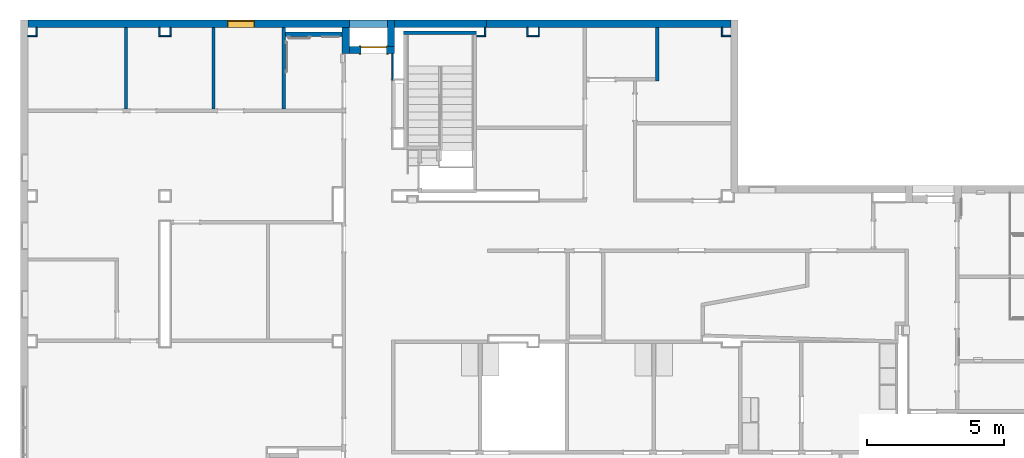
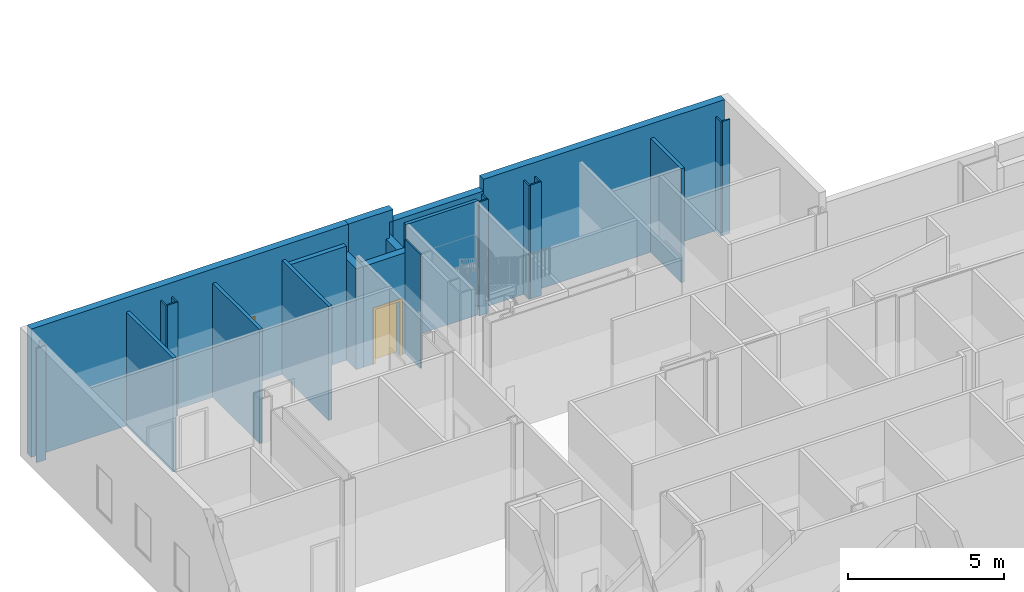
# One storey, part 43 of 87: 26 walls, 1 door, 1 window, 2 openings.
"""IFC2X3 building model written with IfcOpenShell, lengths in metres."""

from ifc_helpers import new_model, entity, si_unit, converted_unit, frame, frame_2d, origin, origin_2d_with_axis, place, context, project, spatial, polyline, rectangle, outline, extrude, clip, bounded_halfspace, source, transform, mapped, material, layer, layer_set, layer_usage, type_object, type_shapes, element, fill, save


model = new_model("IFC2X3")

# Units and contexts
model_context = context("Model", 3, precision=1e-09, world=origin())
plan_context = context("Plan", 3, precision=1e-09, world=origin())
ifc_project = project(units=[si_unit("LENGTHUNIT", "METRE"), si_unit("AREAUNIT", "SQUARE_METRE"), si_unit("VOLUMEUNIT", "CUBIC_METRE"), converted_unit("PLANEANGLEUNIT", "DEGREE", entity("IfcRatioMeasure", 0.01745329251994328), si_unit("PLANEANGLEUNIT", "RADIAN"), dimensions=[0, 0, 0, 0, 0, 0, 0]), si_unit("TIMEUNIT", "SECOND")], contexts=[model_context, plan_context])

# Site, building, storey
site_placement = place(None, origin())
site = spatial("IfcSite", under=ifc_project, at=site_placement, Name="Default", CompositionType="ELEMENT")
building_placement = place(site_placement, origin())
building = spatial("IfcBuilding", under=site, at=building_placement, CompositionType="ELEMENT")
storey_placement = place(building_placement, origin())
storey = spatial("IfcBuildingStorey", under=building, at=storey_placement, Name="First Floor", CompositionType="ELEMENT", Elevation=-3.531500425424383e-13)

# Wall, opening, window
ifc_material_1 = material(Name="Insulation - Insulated Panel")
ifc_layer_1 = layer(ifc_material_1, 0.042)
ifc_material_2 = material(Name="Metal - Firring")
ifc_layer_2 = layer(ifc_material_2, 0.038)
ifc_material_3 = material(Name="Wood - Sheathing - plywood")
ifc_layer_3 = layer(ifc_material_3, 0.019)
ifc_material_4 = material(Name="Metal - Stud Layer")
ifc_layer_4 = layer(ifc_material_4, 0.152)
ifc_material_5 = material(Name="Plasterboard")
ifc_layer_5 = layer(ifc_material_5, 0.016)
ifc_layer_set_1 = layer_set([ifc_layer_1, ifc_layer_2, ifc_layer_3, ifc_layer_4, ifc_layer_5], Name="Basic Wall:Exterior - Insul Panel on Mtl. Stud")
ifc_layer_usage_1 = layer_usage(ifc_layer_set_1, "AXIS2", "NEGATIVE", 0.1335)
wall_1_placement = place(storey_placement, frame((-52.01300000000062, 56.38649999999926, 0.0)))
wall_1 = element("IfcWallStandardCase", 1, at=wall_1_placement, inside=storey, material=ifc_layer_usage_1, Name="Basic Wall:Exterior - Insul Panel on Mtl. Stud", ObjectType="Basic Wall:Exterior - Insul Panel on Mtl. Stud", context=model_context, shape_type="SweptSolid", body=[
    extrude(rectangle(XDim=11.74300000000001, YDim=0.2670000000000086, at=frame_2d((5.871500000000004, 0.0), x_axis=(-1.0, 0.0))), origin(), (0.0, 0.0, 1.0), 5.02700000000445),
])
opening_1_placement = place(wall_1_placement, frame((7.282999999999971, -0.1335000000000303, 0.9049999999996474)))
opening_1 = element("IfcOpeningElement", 2, at=opening_1_placement, cuts=wall_1, Name="M_Fixed:1735 x 1000mm:1735 x 1000mm:1", ObjectType="Opening", context=model_context, shape_type="SweptSolid", body=[
    extrude(rectangle(XDim=1.734999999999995, YDim=0.9999999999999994, at=frame_2d((0.8674999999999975, 0.5000000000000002), x_axis=(1.0, 0.0))), frame((0.0, 0.0, 0.0), z_axis=(0.0, 1.0, 0.0), x_axis=(0.0, 0.0, 1.0)), (0.0, 0.0, 1.0), 0.267),
])
window_style = type_object("IfcWindowStyle", Name="1735 x 1000mm", ConstructionType="NOTDEFINED", OperationType="NOTDEFINED", ParameterTakesPrecedence=False, Sizeable=False)
shared_shape_1 = source(origin(), model_context, "Body", "SweptSolid", [
    extrude(rectangle(XDim=0.012, YDim=0.873999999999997, at=origin_2d_with_axis()), frame((0.5000000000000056, 0.2259999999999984, 0.06299999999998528), z_axis=(0.0, 0.0, 1.0), x_axis=(0.0, -1.0, 0.0)), (0.0, 0.0, 1.0), 1.609000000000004),
    extrude(outline(polyline([(-0.4809999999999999, -0.8485000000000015), (0.4809999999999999, -0.8485000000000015), (0.4809999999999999, 0.8485000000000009), (-0.4809999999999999, 0.8485000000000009), (-0.4809999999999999, -0.8485000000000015)]), holes=[polyline([(-0.4369999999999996, -0.8045000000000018), (-0.4369999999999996, 0.8045000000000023), (0.4369999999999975, 0.8045000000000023), (0.4369999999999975, -0.8045000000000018), (-0.4369999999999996, -0.8045000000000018)])]), frame((0.5000000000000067, 0.203999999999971, 0.8674999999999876), z_axis=(0.0, 1.0, 0.0), x_axis=(1.0, 0.0, 0.0)), (0.0, 0.0, 1.0), 0.04400000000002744),
    extrude(outline(polyline([(-0.4999999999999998, -0.8674999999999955), (0.4999999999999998, -0.8674999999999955), (0.4999999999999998, 0.8674999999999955), (-0.4999999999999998, 0.8674999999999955), (-0.4999999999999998, -0.8674999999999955)]), holes=[polyline([(-0.4810000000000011, -0.8484999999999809), (-0.4810000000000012, 0.8485000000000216), (0.4809999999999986, 0.8485000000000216), (0.4809999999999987, -0.8484999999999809), (-0.4810000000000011, -0.8484999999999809)])]), frame((0.500000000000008, 0.203999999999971, 0.8675000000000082), z_axis=(0.0, 1.0, 0.0), x_axis=(1.0, 0.0, 0.0)), (0.0, 0.0, 1.0), 0.06300000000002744),
    extrude(outline(polyline([(-0.5000000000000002, -0.867499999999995), (0.5000000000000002, -0.867499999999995), (0.5000000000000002, 0.867499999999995), (-0.5000000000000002, 0.867499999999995), (-0.5000000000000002, -0.867499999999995)]), holes=[polyline([(-0.4679999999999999, -0.8354999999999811), (-0.4679999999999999, 0.8355000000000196), (0.4680000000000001, 0.8355000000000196), (0.4680000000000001, -0.8354999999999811), (-0.4679999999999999, -0.8354999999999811)])]), frame((0.5000000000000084, 0.0, 0.8675000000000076), z_axis=(0.0, 1.0, 0.0), x_axis=(1.0, 0.0, 0.0)), (0.0, 0.0, 1.0), 0.2039999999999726),
])
type_shapes(window_style, [shared_shape_1])
window_placement = place(opening_1_placement, origin())
window = element("IfcWindow", 3, at=window_placement, inside=storey, type_object=window_style, Name="M_Fixed:1735 x 1000mm:1735 x 1000mm", ObjectType="1735 x 1000mm", OverallHeight=1.734999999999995, OverallWidth=0.9999999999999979, context=model_context, shape_type="MappedRepresentation", body=[
    mapped(shared_shape_1, transform((0.0, 0.0, 0.0), scale=1.0)),
])
fill(opening_1, window)

# Wall
ifc_layer_usage_2 = layer_usage(ifc_layer_set_1, "AXIS2", "NEGATIVE", 0.1335)
wall_2_placement = place(storey_placement, frame((-40.40350000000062, 56.25299999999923, 0.0), z_axis=(0.0, 0.0, 1.0), x_axis=(0.0, -1.0, 0.0)))
element("IfcWallStandardCase", 4, at=wall_2_placement, inside=storey, material=ifc_layer_usage_2, Name="Basic Wall:Exterior - Insul Panel on Mtl. Stud", ObjectType="Basic Wall:Exterior - Insul Panel on Mtl. Stud", context=model_context, shape_type="SweptSolid", body=[
    extrude(rectangle(XDim=0.9649999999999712, YDim=0.2670000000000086, at=frame_2d((0.4824999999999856, 0.0), x_axis=(-1.0, 0.0))), origin(), (0.0, 0.0, 1.0), 3.949500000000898),
])

# Wall, opening, door
ifc_layer_usage_3 = layer_usage(ifc_layer_set_1, "AXIS2", "NEGATIVE", 0.1335)
wall_3_placement = place(storey_placement, frame((-40.27000000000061, 55.42149999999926, 0.0)))
wall_3 = element("IfcWallStandardCase", 5, at=wall_3_placement, inside=storey, material=ifc_layer_usage_3, Name="Basic Wall:Exterior - Insul Panel on Mtl. Stud", ObjectType="Basic Wall:Exterior - Insul Panel on Mtl. Stud", context=model_context, shape_type="SweptSolid", body=[
    extrude(rectangle(XDim=1.65699999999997, YDim=0.2670000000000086, at=frame_2d((0.8284999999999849, 0.0), x_axis=(-1.0, 0.0))), origin(), (0.0, 0.0, 1.0), 3.949500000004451),
])
opening_2_placement = place(wall_3_placement, frame((0.4349999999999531, -0.133500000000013, 0.0)))
opening_2 = element("IfcOpeningElement", 6, at=opening_2_placement, cuts=wall_3, Name="M_Single-Flush:0915 x 2134mm Exterior:0915 x 2134mm Exterior:1", ObjectType="Opening", context=model_context, shape_type="SweptSolid", body=[
    extrude(rectangle(XDim=0.9149999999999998, YDim=2.134, at=frame_2d((1.067, 0.4575), x_axis=(0.0, 1.0))), frame((0.0, 0.0, 0.0), z_axis=(0.0, 1.0, 0.0), x_axis=(0.0, 0.0, 1.0)), (0.0, 0.0, 1.0), 0.267),
])
door_style = type_object("IfcDoorStyle", Name="0915 x 2134mm Exterior", ConstructionType="NOTDEFINED", OperationType="SINGLE_SWING_RIGHT", ParameterTakesPrecedence=False, Sizeable=False)
shared_shape_2 = source(origin(), model_context, "Body", "SweptSolid", [
    extrude(outline(polyline([(-0.5335, -1.123999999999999), (0.5334999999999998, -1.123999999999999), (0.5334999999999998, 1.086), (0.4574999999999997, 1.086), (0.4574999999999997, -1.048000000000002), (-0.4574999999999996, -1.048000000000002), (-0.4574999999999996, 1.086), (-0.5335, 1.086), (-0.5335, -1.123999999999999)])), frame((0.4575000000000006, 0.2669999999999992, 1.086), z_axis=(0.0, 1.0, 0.0), x_axis=(1.0, 0.0, 0.0)), (0.0, 0.0, 1.0), 0.02499999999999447),
    extrude(outline(polyline([(-1.123999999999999, -0.5334999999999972), (1.085999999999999, -0.5334999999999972), (1.085999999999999, -0.4575000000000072), (-1.048, -0.4575000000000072), (-1.048, 0.4575000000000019), (1.085999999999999, 0.4575000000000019), (1.085999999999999, 0.5335000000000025), (-1.123999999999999, 0.5335000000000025), (-1.123999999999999, -0.5334999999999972)])), frame((0.4575000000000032, -0.02500000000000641, 1.085999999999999), z_axis=(0.0, 1.0, 0.0), x_axis=(0.0, 0.0, -1.0)), (0.0, 0.0, 1.0), 0.0250000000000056),
    extrude(rectangle(XDim=0.051, YDim=0.9149999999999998, at=origin_2d_with_axis()), frame((0.4575000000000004, 0.2414999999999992, 0.0), z_axis=(0.0, 0.0, 1.0), x_axis=(0.0, 1.0, 0.0)), (0.0, 0.0, 1.0), 2.133999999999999),
])
type_shapes(door_style, [shared_shape_2])
door_placement = place(opening_2_placement, origin())
door = element("IfcDoor", 7, at=door_placement, inside=storey, type_object=door_style, Name="M_Single-Flush:0915 x 2134mm Exterior:0915 x 2134mm Exterior", ObjectType="0915 x 2134mm Exterior", OverallHeight=2.134, OverallWidth=0.9149999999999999, context=model_context, shape_type="MappedRepresentation", body=[
    mapped(shared_shape_2, transform((0.0, 0.0, 0.0), scale=1.0)),
])
fill(opening_2, door)

# Walls
ifc_layer_usage_4 = layer_usage(ifc_layer_set_1, "AXIS2", "NEGATIVE", 0.1335)
wall_4_placement = place(storey_placement, frame((-38.74650000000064, 55.55499999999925, 0.0), z_axis=(0.0, 0.0, 1.0), x_axis=(0.0, 1.0, 0.0)))
element("IfcWallStandardCase", 8, at=wall_4_placement, inside=storey, material=ifc_layer_usage_4, Name="Basic Wall:Exterior - Insul Panel on Mtl. Stud", ObjectType="Basic Wall:Exterior - Insul Panel on Mtl. Stud", context=model_context, shape_type="SweptSolid", body=[
    extrude(rectangle(XDim=0.9649999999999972, YDim=0.267, at=frame_2d((0.4824999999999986, 0.0), x_axis=(-1.0, 0.0))), origin(), (0.0, 0.0, 1.0), 3.949500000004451),
])
ifc_layer_usage_5 = layer_usage(ifc_layer_set_1, "AXIS2", "NEGATIVE", 0.1335)
wall_5_placement = place(storey_placement, frame((-35.26350000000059, 56.38649999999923, 0.0)))
element("IfcWallStandardCase", 9, at=wall_5_placement, inside=storey, material=ifc_layer_usage_5, Name="Basic Wall:Exterior - Insul Panel on Mtl. Stud", ObjectType="Basic Wall:Exterior - Insul Panel on Mtl. Stud", context=model_context, shape_type="SweptSolid", body=[
    extrude(rectangle(XDim=8.936499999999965, YDim=0.267, at=frame_2d((4.468249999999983, 0.0), x_axis=(-1.0, 0.0))), origin(), (0.0, 0.0, 1.0), 5.02700000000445),
])
ifc_layer_6 = layer(ifc_material_5, 0.016)
ifc_layer_7 = layer(ifc_material_4, 0.092)
ifc_layer_8 = layer(ifc_material_5, 0.016)
ifc_layer_set_2 = layer_set([ifc_layer_6, ifc_layer_7, ifc_layer_8], Name="Basic Wall:Interior - Partition (92mm Stud)")
ifc_layer_usage_6 = layer_usage(ifc_layer_set_2, "AXIS2", "NEGATIVE", 0.062)
wall_6_placement = place(storey_placement, frame((-48.43200000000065, 56.25299999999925, 0.0), z_axis=(0.0, 0.0, 1.0), x_axis=(0.0, -1.0, 0.0)))
element("IfcWallStandardCase", 10, at=wall_6_placement, inside=storey, material=ifc_layer_usage_6, Name="Basic Wall:Interior - Partition (92mm Stud)", ObjectType="Basic Wall:Interior - Partition (92mm Stud)", context=model_context, shape_type="SweptSolid", body=[
    extrude(rectangle(XDim=2.988999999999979, YDim=0.1240000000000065, at=frame_2d((1.49449999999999, 0.0), x_axis=(-1.0, 0.0))), origin(), (0.0, 0.0, 1.0), 4.46800000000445),
])
ifc_layer_usage_7 = layer_usage(ifc_layer_set_2, "AXIS2", "NEGATIVE", 0.062)
wall_7_placement = place(storey_placement, frame((-45.23200000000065, 56.25299999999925, 0.0), z_axis=(0.0, 0.0, 1.0), x_axis=(0.0, -1.0, 0.0)))
element("IfcWallStandardCase", 11, at=wall_7_placement, inside=storey, material=ifc_layer_usage_7, Name="Basic Wall:Interior - Partition (92mm Stud)", ObjectType="Basic Wall:Interior - Partition (92mm Stud)", context=model_context, shape_type="SweptSolid", body=[
    extrude(rectangle(XDim=2.988999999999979, YDim=0.1240000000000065, at=frame_2d((1.49449999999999, 0.0), x_axis=(-1.0, 0.0))), origin(), (0.0, 0.0, 1.0), 4.46800000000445),
])
ifc_layer_usage_8 = layer_usage(ifc_layer_set_2, "AXIS2", "NEGATIVE", 0.062)
wall_8_placement = place(storey_placement, frame((-42.66200000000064, 56.25299999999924, 0.0), z_axis=(0.0, 0.0, 1.0), x_axis=(0.0, -1.0, 0.0)))
element("IfcWallStandardCase", 12, at=wall_8_placement, inside=storey, material=ifc_layer_usage_8, Name="Basic Wall:Interior - Partition (92mm Stud)", ObjectType="Basic Wall:Interior - Partition (92mm Stud)", context=model_context, shape_type="SweptSolid", body=[
    extrude(rectangle(XDim=2.988999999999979, YDim=0.1240000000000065, at=frame_2d((1.49449999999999, 0.0), x_axis=(-1.0, 0.0))), origin(), (0.0, 0.0, 1.0), 4.46800000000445),
])
ifc_layer_9 = layer(ifc_material_4, 0.152)
ifc_layer_10 = layer(ifc_material_5, 0.016)
ifc_layer_set_3 = layer_set([ifc_layer_9, ifc_layer_10], Name="Basic Wall:Interior - Furring (152 mm Stud)")
ifc_layer_usage_9 = layer_usage(ifc_layer_set_3, "AXIS2", "POSITIVE", -0.08399999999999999)
wall_9_placement = place(storey_placement, frame((-40.53700000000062, 55.99399999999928, 0.0), z_axis=(0.0, 0.0, 1.0), x_axis=(-1.0, 0.0, 0.0)))
element("IfcWallStandardCase", 13, at=wall_9_placement, inside=storey, material=ifc_layer_usage_9, Name="Basic Wall:Interior - Furring (152 mm Stud)", ObjectType="Basic Wall:Interior - Furring (152 mm Stud)", context=model_context, shape_type="SweptSolid", body=[
    extrude(rectangle(XDim=2.063000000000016, YDim=0.1679999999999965, at=frame_2d((1.031500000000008, 0.0), x_axis=(-1.0, 0.0))), origin(), (0.0, 0.0, 1.0), 4.46800000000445),
])
ifc_material_6 = material(Name="Type-X Plasterboard")
ifc_layer_11 = layer(ifc_material_6, 0.016)
ifc_layer_12 = layer(ifc_material_4, 0.092)
ifc_layer_13 = layer(ifc_material_6, 0.016)
ifc_layer_set_4 = layer_set([ifc_layer_11, ifc_layer_12, ifc_layer_13], Name="Basic Wall:Interior - Rated 1-HR (92mm Stud)")
ifc_layer_usage_10 = layer_usage(ifc_layer_set_4, "AXIS2", "NEGATIVE", 0.06200000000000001)
wall_10_placement = place(storey_placement, frame((-35.61600000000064, 56.05700035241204, 0.0), z_axis=(0.0, 0.0, 1.0), x_axis=(-1.0, 0.0, 0.0)))
element("IfcWallStandardCase", 14, at=wall_10_placement, inside=storey, material=ifc_layer_usage_10, Name="Basic Wall:Interior - Rated 1-HR (92mm Stud)", ObjectType="Basic Wall:Interior - Rated 1-HR (92mm Stud)", context=model_context, shape_type="SweptSolid", body=[
    extrude(rectangle(XDim=2.668000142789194, YDim=0.1240000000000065, at=frame_2d((1.334000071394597, 0.0), x_axis=(-1.0, 0.0))), origin(), (0.0, 0.0, 1.0), 4.46800000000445),
])
ifc_layer_usage_11 = layer_usage(ifc_layer_set_2, "AXIS2", "NEGATIVE", 0.062)
wall_11_placement = place(storey_placement, frame((-29.01200000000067, 56.25299999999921, 0.0), z_axis=(0.0, 0.0, 1.0), x_axis=(0.0, -1.0, 0.0)))
element("IfcWallStandardCase", 15, at=wall_11_placement, inside=storey, material=ifc_layer_usage_11, Name="Basic Wall:Interior - Partition (92mm Stud)", ObjectType="Basic Wall:Interior - Partition (92mm Stud)", context=model_context, shape_type="SweptSolid", body=[
    extrude(rectangle(XDim=1.96639999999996, YDim=0.1239999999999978, at=frame_2d((0.9831999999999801, 0.0), x_axis=(-1.0, 0.0))), origin(), (0.0, 0.0, 1.0), 4.468000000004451),
])
ifc_layer_usage_12 = layer_usage(ifc_layer_set_1, "AXIS2", "NEGATIVE", 0.1335)
wall_12_placement = place(storey_placement, frame((-40.40350000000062, 56.38649999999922, 3.0)))
element("IfcWallStandardCase", 16, at=wall_12_placement, inside=storey, material=ifc_layer_usage_12, Name="Basic Wall:Exterior - Insul Panel on Mtl. Stud", ObjectType="Basic Wall:Exterior - Insul Panel on Mtl. Stud", context=model_context, shape_type="Clipping", body=[
    clip(extrude(rectangle(XDim=1.65699999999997, YDim=0.2669999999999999, at=frame_2d((0.9619999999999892, 0.0), x_axis=(-1.0, 0.0))), origin(), (0.0, 0.0, 1.0), 2.02700000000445), bounded_halfspace(frame((1.656999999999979, -0.1334999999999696, 0.9495000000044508), z_axis=(-1.0, 0.0, 0.0), x_axis=(0.0, 1.0, 0.0)), True, frame((1.656999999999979, -0.1334999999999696, 0.9495000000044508), z_axis=(-1.0, 0.0, 0.0), x_axis=(0.0, 1.0, 0.0)), polyline([(0.0, 0.0), (0.0, -0.6204999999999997), (0.2669999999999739, -0.6204999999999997), (0.2669999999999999, 0.0), (0.0, 0.0)]))),
])
ifc_layer_usage_13 = layer_usage(ifc_layer_set_1, "AXIS2", "NEGATIVE", 0.1335)
wall_13_placement = place(storey_placement, frame((-38.74650000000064, 56.38649999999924, 0.0)))
element("IfcWallStandardCase", 17, at=wall_13_placement, inside=storey, material=ifc_layer_usage_13, Name="Basic Wall:Exterior - Insul Panel on Mtl. Stud", ObjectType="Basic Wall:Exterior - Insul Panel on Mtl. Stud", context=model_context, shape_type="SweptSolid", body=[
    extrude(rectangle(XDim=3.349500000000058, YDim=0.267, at=frame_2d((1.808250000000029, 0.0), x_axis=(-1.0, 0.0))), origin(), (0.0, 0.0, 1.0), 4.57000000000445),
])
ifc_layer_14 = layer(ifc_material_4, 0.038)
ifc_layer_15 = layer(ifc_material_5, 0.016)
ifc_layer_set_5 = layer_set([ifc_layer_14, ifc_layer_15], Name="Basic Wall:Interior - Furring (38 mm Stud)")
ifc_layer_usage_14 = layer_usage(ifc_layer_set_5, "AXIS2", "NEGATIVE", 0.027)
wall_14_placement = place(storey_placement, frame((-52.01300000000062, 55.93699999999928, 0.0)))
element("IfcWallStandardCase", 18, at=wall_14_placement, inside=storey, material=ifc_layer_usage_14, Name="Basic Wall:Interior - Furring (38 mm Stud)", ObjectType="Basic Wall:Interior - Furring (38 mm Stud)", context=model_context, shape_type="SweptSolid", body=[
    extrude(rectangle(XDim=0.343, YDim=0.05400000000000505, at=frame_2d((0.1715, 0.0), x_axis=(-1.0, 0.0))), origin(), (0.0, 0.0, 1.0), 4.46800000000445),
])
ifc_layer_usage_15 = layer_usage(ifc_layer_set_5, "AXIS2", "NEGATIVE", 0.027)
wall_15_placement = place(storey_placement, frame((-51.69700000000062, 55.96399999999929, 0.0), z_axis=(0.0, 0.0, 1.0), x_axis=(0.0, 1.0, 0.0)))
element("IfcWallStandardCase", 19, at=wall_15_placement, inside=storey, material=ifc_layer_usage_15, Name="Basic Wall:Interior - Furring (38 mm Stud)", ObjectType="Basic Wall:Interior - Furring (38 mm Stud)", context=model_context, shape_type="SweptSolid", body=[
    extrude(rectangle(XDim=0.2889999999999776, YDim=0.05400000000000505, at=frame_2d((0.1444999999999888, 0.0), x_axis=(-1.0, 0.0))), origin(), (0.0, 0.0, 1.0), 4.46800000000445),
])
ifc_layer_usage_16 = layer_usage(ifc_layer_set_5, "AXIS2", "NEGATIVE", 0.027)
wall_16_placement = place(storey_placement, frame((-47.20300000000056, 56.25299999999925, 0.0), z_axis=(0.0, 0.0, 1.0), x_axis=(0.0, -1.0, 0.0)))
element("IfcWallStandardCase", 20, at=wall_16_placement, inside=storey, material=ifc_layer_usage_16, Name="Basic Wall:Interior - Furring (38 mm Stud)", ObjectType="Basic Wall:Interior - Furring (38 mm Stud)", context=model_context, shape_type="SweptSolid", body=[
    extrude(rectangle(XDim=0.342999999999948, YDim=0.05400000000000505, at=frame_2d((0.171499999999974, 0.0), x_axis=(-1.0, 0.0))), origin(), (0.0, 0.0, 1.0), 4.46800000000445),
])
ifc_layer_usage_17 = layer_usage(ifc_layer_set_5, "AXIS2", "NEGATIVE", 0.027)
wall_17_placement = place(storey_placement, frame((-47.17600000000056, 55.93699999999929, 0.0)))
element("IfcWallStandardCase", 21, at=wall_17_placement, inside=storey, material=ifc_layer_usage_17, Name="Basic Wall:Interior - Furring (38 mm Stud)", ObjectType="Basic Wall:Interior - Furring (38 mm Stud)", context=model_context, shape_type="SweptSolid", body=[
    extrude(rectangle(XDim=0.4059999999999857, YDim=0.05400000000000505, at=frame_2d((0.2029999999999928, 0.0), x_axis=(-1.0, 0.0))), origin(), (0.0, 0.0, 1.0), 4.46800000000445),
])
ifc_layer_usage_18 = layer_usage(ifc_layer_set_5, "AXIS2", "NEGATIVE", 0.027)
wall_18_placement = place(storey_placement, frame((-46.79700000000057, 55.9639999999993, 0.0), z_axis=(0.0, 0.0, 1.0), x_axis=(0.0, 1.0, 0.0)))
element("IfcWallStandardCase", 22, at=wall_18_placement, inside=storey, material=ifc_layer_usage_18, Name="Basic Wall:Interior - Furring (38 mm Stud)", ObjectType="Basic Wall:Interior - Furring (38 mm Stud)", context=model_context, shape_type="SweptSolid", body=[
    extrude(rectangle(XDim=0.2889999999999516, YDim=0.05400000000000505, at=frame_2d((0.1444999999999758, 0.0), x_axis=(-1.0, 0.0))), origin(), (0.0, 0.0, 1.0), 4.46800000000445),
])
ifc_layer_usage_19 = layer_usage(ifc_layer_set_5, "AXIS2", "NEGATIVE", 0.027)
wall_19_placement = place(storey_placement, frame((-38.69300000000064, 55.28799999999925, 0.0), z_axis=(0.0, 0.0, 1.0), x_axis=(0.0, -1.0, 0.0)))
element("IfcWallStandardCase", 23, at=wall_19_placement, inside=storey, material=ifc_layer_usage_19, Name="Basic Wall:Interior - Furring (38 mm Stud)", ObjectType="Basic Wall:Interior - Furring (38 mm Stud)", context=model_context, shape_type="SweptSolid", body=[
    extrude(rectangle(XDim=0.9745743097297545, YDim=0.05399999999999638, at=frame_2d((0.4872871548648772, 0.0), x_axis=(-1.0, 0.0))), origin(), (0.0, 0.0, 1.0), 4.46800000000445),
])
ifc_layer_usage_20 = layer_usage(ifc_layer_set_5, "AXIS2", "NEGATIVE", 0.027)
wall_20_placement = place(storey_placement, frame((-35.61600000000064, 55.93700088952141, 0.0)))
element("IfcWallStandardCase", 24, at=wall_20_placement, inside=storey, material=ifc_layer_usage_20, Name="Basic Wall:Interior - Furring (38 mm Stud)", ObjectType="Basic Wall:Interior - Furring (38 mm Stud)", context=model_context, shape_type="SweptSolid", body=[
    extrude(rectangle(XDim=0.340000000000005, YDim=0.05400000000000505, at=frame_2d((0.1700000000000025, 0.0), x_axis=(-1.0, 0.0))), origin(), (0.0, 0.0, 1.0), 4.46800000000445),
])
ifc_layer_usage_21 = layer_usage(ifc_layer_set_5, "AXIS2", "NEGATIVE", 0.027)
wall_21_placement = place(storey_placement, frame((-35.30300000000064, 55.96400088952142, 0.0), z_axis=(0.0, 0.0, 1.0), x_axis=(0.0, 1.0, 0.0)))
element("IfcWallStandardCase", 25, at=wall_21_placement, inside=storey, material=ifc_layer_usage_21, Name="Basic Wall:Interior - Furring (38 mm Stud)", ObjectType="Basic Wall:Interior - Furring (38 mm Stud)", context=model_context, shape_type="SweptSolid", body=[
    extrude(rectangle(XDim=0.2889991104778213, YDim=0.05399999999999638, at=frame_2d((0.1444995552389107, 0.0), x_axis=(-1.0, 0.0))), origin(), (0.0, 0.0, 1.0), 4.46800000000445),
])
ifc_layer_usage_22 = layer_usage(ifc_layer_set_5, "AXIS2", "NEGATIVE", 0.027)
wall_22_placement = place(storey_placement, frame((-33.75300000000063, 56.25299999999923, 0.0), z_axis=(0.0, 0.0, 1.0), x_axis=(0.0, -1.0, 0.0)))
element("IfcWallStandardCase", 26, at=wall_22_placement, inside=storey, material=ifc_layer_usage_22, Name="Basic Wall:Interior - Furring (38 mm Stud)", ObjectType="Basic Wall:Interior - Furring (38 mm Stud)", context=model_context, shape_type="SweptSolid", body=[
    extrude(rectangle(XDim=0.3429991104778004, YDim=0.05399999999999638, at=frame_2d((0.1714995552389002, 0.0), x_axis=(-1.0, 0.0))), origin(), (0.0, 0.0, 1.0), 4.46800000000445),
])
ifc_layer_usage_23 = layer_usage(ifc_layer_set_5, "AXIS2", "NEGATIVE", 0.027)
wall_23_placement = place(storey_placement, frame((-33.72600000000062, 55.93700088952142, 0.0)))
element("IfcWallStandardCase", 27, at=wall_23_placement, inside=storey, material=ifc_layer_usage_23, Name="Basic Wall:Interior - Furring (38 mm Stud)", ObjectType="Basic Wall:Interior - Furring (38 mm Stud)", context=model_context, shape_type="SweptSolid", body=[
    extrude(rectangle(XDim=0.4060000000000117, YDim=0.05400000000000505, at=frame_2d((0.2030000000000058, 0.0), x_axis=(-1.0, 0.0))), origin(), (0.0, 0.0, 1.0), 4.46800000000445),
])
ifc_layer_usage_24 = layer_usage(ifc_layer_set_5, "AXIS2", "NEGATIVE", 0.027)
wall_24_placement = place(storey_placement, frame((-33.34700000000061, 55.96400088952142, 0.0), z_axis=(0.0, 0.0, 1.0), x_axis=(0.0, 1.0, 0.0)))
element("IfcWallStandardCase", 28, at=wall_24_placement, inside=storey, material=ifc_layer_usage_24, Name="Basic Wall:Interior - Furring (38 mm Stud)", ObjectType="Basic Wall:Interior - Furring (38 mm Stud)", context=model_context, shape_type="SweptSolid", body=[
    extrude(rectangle(XDim=0.288999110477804, YDim=0.05399999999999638, at=frame_2d((0.144499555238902, 0.0), x_axis=(-1.0, 0.0))), origin(), (0.0, 0.0, 1.0), 4.46800000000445),
])
ifc_layer_usage_25 = layer_usage(ifc_layer_set_5, "AXIS2", "NEGATIVE", 0.027)
wall_25_placement = place(storey_placement, frame((-26.64300000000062, 56.2529999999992, 0.0), z_axis=(0.0, 0.0, 1.0), x_axis=(0.0, -1.0, 0.0)))
element("IfcWallStandardCase", 29, at=wall_25_placement, inside=storey, material=ifc_layer_usage_25, Name="Basic Wall:Interior - Furring (38 mm Stud)", ObjectType="Basic Wall:Interior - Furring (38 mm Stud)", context=model_context, shape_type="SweptSolid", body=[
    extrude(rectangle(XDim=0.3429999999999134, YDim=0.05399999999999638, at=frame_2d((0.1714999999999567, 0.0), x_axis=(-1.0, 0.0))), origin(), (0.0, 0.0, 1.0), 4.46800000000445),
])
ifc_layer_usage_26 = layer_usage(ifc_layer_set_5, "AXIS2", "NEGATIVE", 0.027)
wall_26_placement = place(storey_placement, frame((-26.61600000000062, 55.93699999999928, 0.0)))
element("IfcWallStandardCase", 30, at=wall_26_placement, inside=storey, material=ifc_layer_usage_26, Name="Basic Wall:Interior - Furring (38 mm Stud)", ObjectType="Basic Wall:Interior - Furring (38 mm Stud)", context=model_context, shape_type="SweptSolid", body=[
    extrude(rectangle(XDim=0.2889999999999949, YDim=0.05400000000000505, at=frame_2d((0.1444999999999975, 0.0), x_axis=(-1.0, 0.0))), origin(), (0.0, 0.0, 1.0), 4.46800000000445),
])

save(model, "model.ifc")
